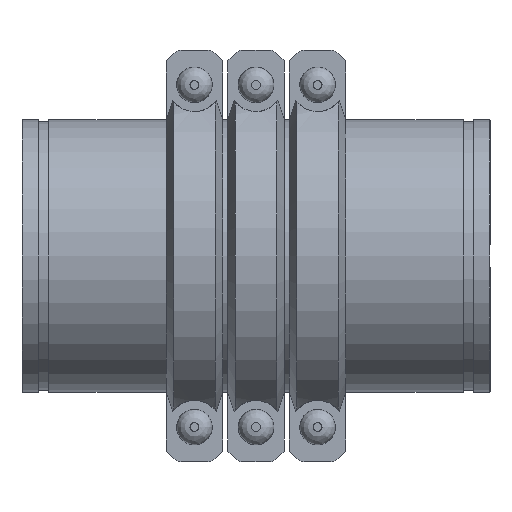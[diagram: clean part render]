
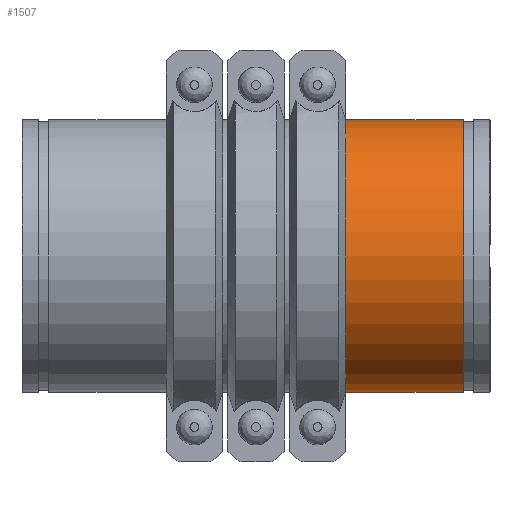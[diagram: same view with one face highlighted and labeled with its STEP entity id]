
A CAD part, front view. The second image highlights one B-rep face of the part: STEP entity #1507.
In plain terms, the highlighted cylindrical face has radius 161.925 mm (diameter 323.85 mm), a full revolution.
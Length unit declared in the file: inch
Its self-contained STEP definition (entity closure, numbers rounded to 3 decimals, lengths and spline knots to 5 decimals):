
#79=LINE('',#2401,#168);
#168=VECTOR('',#1942,6.375);
#257=CYLINDRICAL_SURFACE('',#1718,6.375);
#318=FACE_OUTER_BOUND('',#407,.T.);
#407=EDGE_LOOP('',(#988,#989,#990,#991,#992,#993));
#521=CIRCLE('',#1716,6.375);
#522=CIRCLE('',#1717,6.375);
#523=CIRCLE('',#1719,6.375);
#524=CIRCLE('',#1720,6.375);
#617=VERTEX_POINT('',#2392);
#618=VERTEX_POINT('',#2393);
#619=VERTEX_POINT('',#2397);
#620=VERTEX_POINT('',#2398);
#766=EDGE_CURVE('',#617,#618,#521,.T.);
#767=EDGE_CURVE('',#618,#617,#522,.T.);
#768=EDGE_CURVE('',#619,#620,#523,.T.);
#769=EDGE_CURVE('',#620,#619,#524,.T.);
#770=EDGE_CURVE('',#620,#618,#79,.T.);
#988=ORIENTED_EDGE('',*,*,#768,.F.);
#989=ORIENTED_EDGE('',*,*,#769,.F.);
#990=ORIENTED_EDGE('',*,*,#770,.T.);
#991=ORIENTED_EDGE('',*,*,#767,.T.);
#992=ORIENTED_EDGE('',*,*,#766,.T.);
#993=ORIENTED_EDGE('',*,*,#770,.F.);
#1507=ADVANCED_FACE('',(#318),#257,.T.);
#1716=AXIS2_PLACEMENT_3D('',#2394,#1932,#1933);
#1717=AXIS2_PLACEMENT_3D('',#2395,#1934,#1935);
#1718=AXIS2_PLACEMENT_3D('',#2396,#1936,#1937);
#1719=AXIS2_PLACEMENT_3D('',#2399,#1938,#1939);
#1720=AXIS2_PLACEMENT_3D('',#2400,#1940,#1941);
#1932=DIRECTION('center_axis',(-1.,0.,0.));
#1933=DIRECTION('ref_axis',(0.,0.,1.));
#1934=DIRECTION('center_axis',(-1.,0.,0.));
#1935=DIRECTION('ref_axis',(0.,0.,1.));
#1936=DIRECTION('center_axis',(-1.,0.,0.));
#1937=DIRECTION('ref_axis',(0.,1.,0.));
#1938=DIRECTION('center_axis',(-1.,0.,0.));
#1939=DIRECTION('ref_axis',(0.,0.,1.));
#1940=DIRECTION('center_axis',(-1.,0.,0.));
#1941=DIRECTION('ref_axis',(0.,0.,1.));
#1942=DIRECTION('',(1.,0.,0.));
#2392=CARTESIAN_POINT('',(2.75,6.375,0.));
#2393=CARTESIAN_POINT('',(2.75,-6.375,0.));
#2394=CARTESIAN_POINT('Origin',(2.75,0.,0.));
#2395=CARTESIAN_POINT('Origin',(2.75,0.,0.));
#2396=CARTESIAN_POINT('Origin',(0.,0.,
0.));
#2397=CARTESIAN_POINT('',(-2.75,6.375,0.));
#2398=CARTESIAN_POINT('',(-2.75,-6.375,0.));
#2399=CARTESIAN_POINT('Origin',(-2.75,0.,0.));
#2400=CARTESIAN_POINT('Origin',(-2.75,0.,0.));
#2401=CARTESIAN_POINT('',(0.,-6.375,0.));
